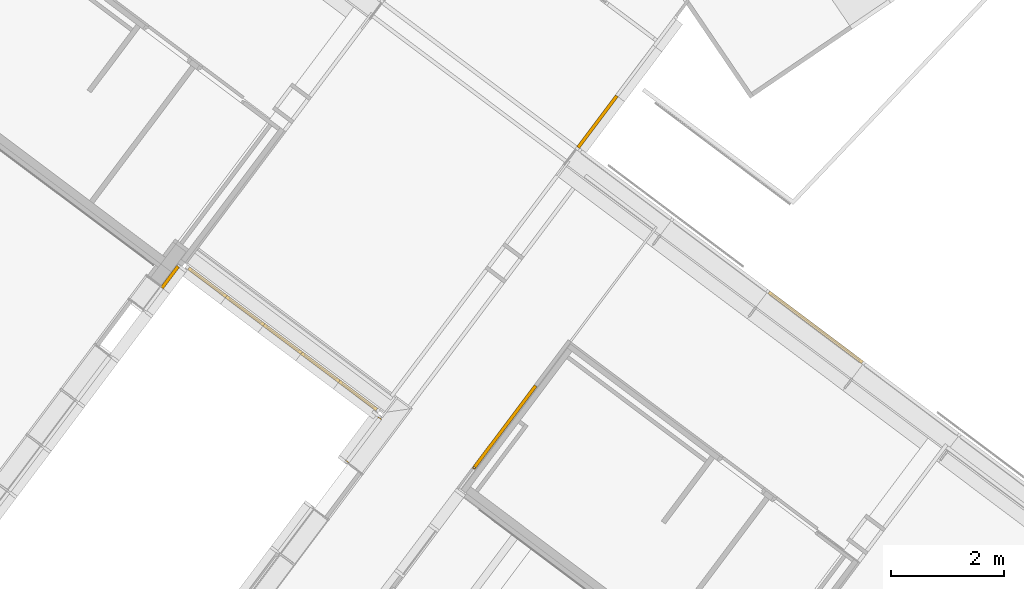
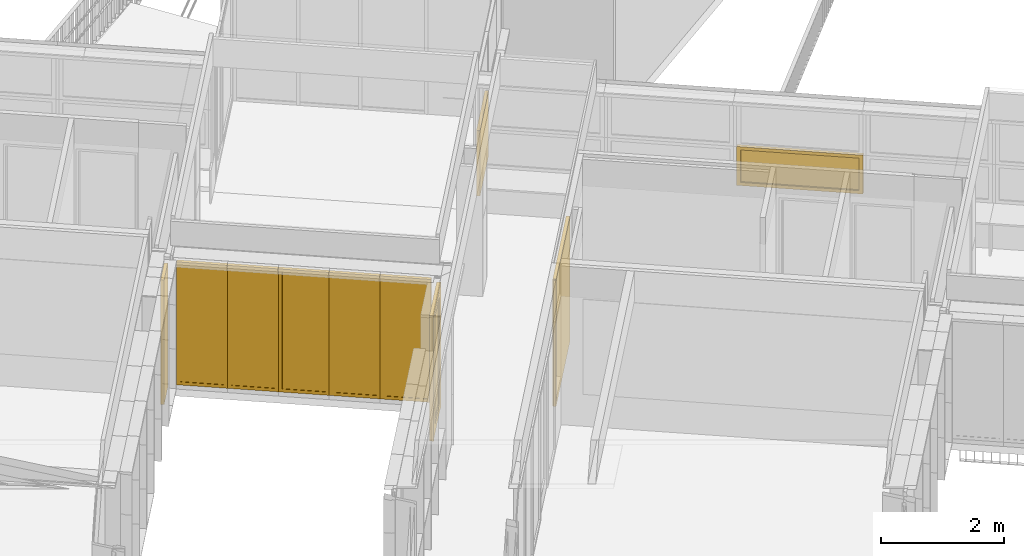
# One storey, part 205 of 243: 6 windows, 4 doors, 5 elements without a shape of their own.
"""IFC2X3 building model written with IfcOpenShell, lengths in metres."""

from ifc_helpers import new_model, entity, si_unit, converted_unit, derived_unit, direction, frame, frame_2d, origin, origin_2d_with_axis, place, context, subcontext, project, spatial, polyline, circle_curve, parameter, trimmed, segment, composite_curve, rectangle, outline, extrude, faceted_brep, source, transform, mapped, material, material_list, type_object, type_shapes, element, aggregate, save


model = new_model("IFC2X3")

# Units and contexts
model_context = context("Model", 3, precision=1e-05, world=origin(), true_north=direction((6.123031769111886e-17, 1.0)))
body_context = subcontext(model_context, "Body", "Model", "MODEL_VIEW")
ifc_project = project(units=[si_unit("LENGTHUNIT", "METRE"), si_unit("AREAUNIT", "SQUARE_METRE"), si_unit("VOLUMEUNIT", "CUBIC_METRE"), converted_unit("PLANEANGLEUNIT", "DEGREE", entity("IfcRatioMeasure", 0.017453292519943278), si_unit("PLANEANGLEUNIT", "RADIAN"), dimensions=[0, 0, 0, 0, 0, 0, 0]), si_unit("MASSUNIT", "GRAM", prefix="KILO"), derived_unit("MASSDENSITYUNIT", [(si_unit("MASSUNIT", "GRAM", prefix="KILO"), 1), (si_unit("LENGTHUNIT", "METRE"), -3)]), derived_unit("IONCONCENTRATIONUNIT", [(si_unit("MASSUNIT", "GRAM", prefix="KILO"), 1), (si_unit("LENGTHUNIT", "METRE"), -3)]), derived_unit("MOMENTOFINERTIAUNIT", [(si_unit("LENGTHUNIT", "METRE"), 4)]), si_unit("TIMEUNIT", "SECOND"), si_unit("FREQUENCYUNIT", "HERTZ"), si_unit("THERMODYNAMICTEMPERATUREUNIT", "DEGREE_CELSIUS"), derived_unit("THERMALTRANSMITTANCEUNIT", [(si_unit("MASSUNIT", "GRAM", prefix="KILO"), 1), (si_unit("THERMODYNAMICTEMPERATUREUNIT", "KELVIN"), -1), (si_unit("TIMEUNIT", "SECOND"), -3)]), derived_unit("THERMALCONDUCTANCEUNIT", [(si_unit("MASSUNIT", "GRAM", prefix="KILO"), 1), (si_unit("THERMODYNAMICTEMPERATUREUNIT", "KELVIN"), -1), (si_unit("TIMEUNIT", "SECOND"), -3), (si_unit("LENGTHUNIT", "METRE"), 1)]), derived_unit("VOLUMETRICFLOWRATEUNIT", [(si_unit("LENGTHUNIT", "METRE"), 3), (si_unit("TIMEUNIT", "SECOND"), -1)]), derived_unit("MASSFLOWRATEUNIT", [(si_unit("MASSUNIT", "GRAM", prefix="KILO"), 1), (si_unit("TIMEUNIT", "SECOND"), -1)]), derived_unit("ROTATIONALFREQUENCYUNIT", [(si_unit("TIMEUNIT", "SECOND"), -1)]), si_unit("ELECTRICCURRENTUNIT", "AMPERE"), si_unit("ELECTRICVOLTAGEUNIT", "VOLT"), si_unit("POWERUNIT", "WATT"), si_unit("FORCEUNIT", "NEWTON", prefix="KILO"), si_unit("ILLUMINANCEUNIT", "LUX"), si_unit("LUMINOUSFLUXUNIT", "LUMEN"), si_unit("LUMINOUSINTENSITYUNIT", "CANDELA"), derived_unit("USERDEFINED", [(si_unit("MASSUNIT", "GRAM", prefix="KILO"), -1), (si_unit("LENGTHUNIT", "METRE"), -2), (si_unit("TIMEUNIT", "SECOND"), 3), (si_unit("LUMINOUSFLUXUNIT", "LUMEN"), 1)]), derived_unit("USERDEFINED", [(si_unit("MASSUNIT", "GRAM", prefix="KILO"), 1), (si_unit("TIMEUNIT", "SECOND"), -3), (si_unit("LENGTHUNIT", "METRE"), 3), (si_unit("ELECTRICCURRENTUNIT", "AMPERE"), -2)]), derived_unit("SOUNDPOWERUNIT", [(si_unit("MASSUNIT", "GRAM", prefix="KILO"), 1), (si_unit("TIMEUNIT", "SECOND"), -3), (si_unit("LENGTHUNIT", "METRE"), 2)]), derived_unit("SOUNDPRESSUREUNIT", [(si_unit("MASSUNIT", "GRAM", prefix="KILO"), 1), (si_unit("LENGTHUNIT", "METRE"), -1), (si_unit("TIMEUNIT", "SECOND"), -2)]), derived_unit("LINEARVELOCITYUNIT", [(si_unit("LENGTHUNIT", "METRE"), 1), (si_unit("TIMEUNIT", "SECOND"), -1)]), si_unit("PRESSUREUNIT", "PASCAL"), derived_unit("USERDEFINED", [(si_unit("MASSUNIT", "GRAM", prefix="KILO"), 1), (si_unit("LENGTHUNIT", "METRE"), -2), (si_unit("TIMEUNIT", "SECOND"), -2)]), derived_unit("LINEARFORCEUNIT", [(si_unit("MASSUNIT", "GRAM", prefix="KILO"), 1), (si_unit("TIMEUNIT", "SECOND"), -2)]), derived_unit("PLANARFORCEUNIT", [(si_unit("MASSUNIT", "GRAM", prefix="KILO"), 1), (si_unit("LENGTHUNIT", "METRE"), -1), (si_unit("TIMEUNIT", "SECOND"), -2)]), derived_unit("SPECIFICHEATCAPACITYUNIT", [(si_unit("THERMODYNAMICTEMPERATUREUNIT", "KELVIN"), -1), (si_unit("LENGTHUNIT", "METRE"), 2), (si_unit("TIMEUNIT", "SECOND"), -2)]), derived_unit("HEATINGVALUEUNIT", [(si_unit("LENGTHUNIT", "METRE"), 2), (si_unit("TIMEUNIT", "SECOND"), -2)]), derived_unit("VAPORPERMEABILITYUNIT", [(si_unit("LENGTHUNIT", "METRE"), -1), (si_unit("TIMEUNIT", "SECOND"), 1)]), derived_unit("DYNAMICVISCOSITYUNIT", [(si_unit("MASSUNIT", "GRAM", prefix="KILO"), 1), (si_unit("TIMEUNIT", "SECOND"), -1), (si_unit("LENGTHUNIT", "METRE"), -1)]), derived_unit("THERMALEXPANSIONCOEFFICIENTUNIT", [(si_unit("THERMODYNAMICTEMPERATUREUNIT", "KELVIN"), -1)]), derived_unit("MODULUSOFELASTICITYUNIT", [(si_unit("MASSUNIT", "GRAM", prefix="KILO"), 1), (si_unit("LENGTHUNIT", "METRE"), -1), (si_unit("TIMEUNIT", "SECOND"), -2)]), derived_unit("ISOTHERMALMOISTURECAPACITYUNIT", [(si_unit("LENGTHUNIT", "METRE"), 3), (si_unit("MASSUNIT", "GRAM", prefix="KILO"), -1)]), derived_unit("MOISTUREDIFFUSIVITYUNIT", [(si_unit("TIMEUNIT", "SECOND"), -1), (si_unit("LENGTHUNIT", "METRE"), 2)])], contexts=[model_context])

# Site, building, storey
site_placement = place(None, frame((0.0, 0.0, 235.0), z_axis=(0.0, 0.0, 1.0), x_axis=(-0.7996477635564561, 0.6004693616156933, 0.0)))
site = spatial("IfcSite", under=ifc_project, at=site_placement, Name="Default", CompositionType="ELEMENT")
building_placement = place(site_placement, origin())
building = spatial("IfcBuilding", under=site, at=building_placement, CompositionType="ELEMENT")
storey_placement = place(building_placement, origin())
storey = spatial("IfcBuildingStorey", under=building, at=storey_placement, Name="P0- Escola", CompositionType="ELEMENT", Elevation=0.0)

# Curtain wall, door
curtain_wall_type_1 = type_object("IfcCurtainWallType", Name="Muro cortina:MC- EXT- MC2", PredefinedType="NOTDEFINED")
curtain_wall_1_placement = place(storey_placement, origin())
curtain_wall_1 = element("IfcCurtainWall", 1, at=curtain_wall_1_placement, inside=storey, type_object=curtain_wall_type_1, Name="Muro cortina:MC- EXT- MC2", ObjectType="Muro cortina:MC- EXT- MC2")
ifc_material_1 = material(Name="_Alumini- T1- Perfil")
ifc_material_2 = material(Name="_Aillament")
ifc_material_list_1 = material_list([ifc_material_1, ifc_material_2])
door_style_1 = type_object("IfcDoorStyle", Name="MC- Alu- panell especific xapa:MC- Alu- panell especific xapa", ConstructionType="NOTDEFINED", OperationType="NOTDEFINED", ParameterTakesPrecedence=False, Sizeable=False, material=ifc_material_list_1)
shared_shape_1 = source(origin(), body_context, "Body", "SweptSolid", [
    extrude(rectangle(XDim=0.005999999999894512, YDim=0.47694997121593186, at=origin_2d_with_axis()), frame((0.0, -0.057000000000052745, 0.0), z_axis=(0.0, 0.0, 1.0), x_axis=(0.0, -1.0, 0.0)), (0.0, 0.0, 1.0), 2.471449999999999),
    extrude(rectangle(XDim=0.4769499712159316, YDim=0.048000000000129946, at=origin_2d_with_axis()), frame((0.0, -0.030000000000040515, 0.0)), (0.0, 0.0, 1.0), 2.471449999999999),
    extrude(rectangle(XDim=0.005999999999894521, YDim=0.47694997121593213, at=origin_2d_with_axis()), frame((0.0, -0.003000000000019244, 0.0), z_axis=(0.0, 0.0, 1.0), x_axis=(0.0, -1.0, 0.0)), (0.0, 0.0, 1.0), 2.471449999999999),
])
type_shapes(door_style_1, [shared_shape_1])
door_1_placement = place(curtain_wall_1_placement, frame((66.44514768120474, -36.16166496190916, 0.03229999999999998), z_axis=(0.0, 0.0, 1.0), x_axis=(0.0, 1.0, 0.0)))
door_1 = element("IfcDoor", 2, at=door_1_placement, type_object=door_style_1, material=ifc_material_list_1, Name="MC- Alu- panell especific xapa:MC- Alu- panell especific xapa", ObjectType="MC- Alu- panell especific xapa:MC- Alu- panell especific xapa", OverallHeight=2.471449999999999, OverallWidth=0.47694997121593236, context=body_context, shape_type="MappedRepresentation", body=[
    mapped(shared_shape_1, transform((0.0, 0.0, 0.0), scale=1.0)),
])
aggregate(curtain_wall_1, [door_1])

curtain_wall_type_2 = type_object("IfcCurtainWallType", Name="Muro cortina:MC- EXT- MC5", PredefinedType="NOTDEFINED")
curtain_wall_2_placement = place(storey_placement, origin())
curtain_wall_2 = element("IfcCurtainWall", 3, at=curtain_wall_2_placement, inside=storey, type_object=curtain_wall_type_2, Name="Muro cortina:MC- EXT- MC5", ObjectType="Muro cortina:MC- EXT- MC5")
ifc_material_3 = material(Name="_Vidre")
ifc_material_list_2 = material_list([ifc_material_1, ifc_material_3])
door_style_2 = type_object("IfcDoorStyle", Name="MC- Alu- Conjunt porta- 70x60 cm- +15cm:MC- Alu- Conjunt porta- 70x60 cm- +15cm", ConstructionType="NOTDEFINED", OperationType="SINGLE_SWING_RIGHT", ParameterTakesPrecedence=False, Sizeable=False, material=ifc_material_list_2)
shared_shape_2 = source(origin(), body_context, "Body", "Brep", [
    faceted_brep([(-0.4116740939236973, -0.06999999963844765, 0.024000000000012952), (-0.4116740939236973, -0.004300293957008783, 0.024000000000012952), (0.4116740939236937, -0.004300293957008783, 0.024000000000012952), (0.4116740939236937, -0.06999999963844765, 0.024000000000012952), (-0.4116740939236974, -0.004300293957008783, 2.410449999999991), (-0.4116740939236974, -0.06999999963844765, 2.410449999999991), (0.4116740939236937, -0.004300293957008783, 2.410449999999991), (0.4356740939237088, -0.004300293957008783, 0.0), (0.4356740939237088, -0.004300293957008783, 2.434450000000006), (-0.4356740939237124, -0.004300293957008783, 2.434450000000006), (-0.4356740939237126, -0.004300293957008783, 0.0), (0.4116740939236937, -0.06999999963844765, 2.410449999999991), (-0.33507409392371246, -0.06999999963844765, 2.333850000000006), (0.3350740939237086, -0.06999999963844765, 2.333850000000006), (0.3350740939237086, -0.06999999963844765, 0.20400000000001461), (-0.3350740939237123, -0.06999999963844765, 0.20400000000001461), (0.4356740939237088, -2.945720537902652e-07, 2.434450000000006), (0.4356740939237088, -2.945720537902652e-07, 0.0), (-0.4356740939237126, -2.945720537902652e-07, 0.0), (-0.43567409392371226, -2.945720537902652e-07, 2.434450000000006), (0.3350740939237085, -2.945720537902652e-07, 2.333850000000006), (-0.33507409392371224, -2.945720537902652e-07, 2.333850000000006), (-0.3350740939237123, -2.945720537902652e-07, 0.20400000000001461), (0.33507409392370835, -2.945720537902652e-07, 0.20400000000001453), (0.33507409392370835, -0.005500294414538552, 2.333850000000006), (0.3350740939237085, -0.005500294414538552, 0.20400000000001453), (-0.3350740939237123, -0.005500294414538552, 0.20400000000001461), (-0.33507409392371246, -0.005500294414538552, 2.333850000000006), (0.36007409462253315, -0.005500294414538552, 2.3588500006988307), (-0.360074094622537, -0.005500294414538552, 2.3588500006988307), (-0.360074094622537, -0.005500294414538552, 0.17899999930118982), (0.36007409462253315, -0.005500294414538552, 0.17899999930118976), (0.36007409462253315, -0.051000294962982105, 2.3588500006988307), (0.36007409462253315, -0.051000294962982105, 0.17899999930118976), (-0.360074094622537, -0.051000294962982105, 0.17899999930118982), (-0.36007409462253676, -0.051000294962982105, 2.3588500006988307), (0.3350740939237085, -0.051000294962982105, 2.333850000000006), (-0.33507409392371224, -0.051000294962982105, 2.333850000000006), (-0.3350740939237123, -0.051000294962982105, 0.20400000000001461), (0.33507409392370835, -0.051000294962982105, 0.20400000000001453)], [[[0, 1, 2, 3]], [[4, 1, 0, 5]], [[2, 1, 4, 6], [7, 8, 9, 10]], [[2, 6, 11, 3]], [[12, 13, 14, 15], [11, 5, 0, 3]], [[16, 8, 7, 17]], [[10, 18, 17, 7]], [[18, 19, 16, 17], [20, 21, 22, 23]], [[24, 20, 23, 25]], [[23, 22, 26, 25]], [[27, 24, 25, 26], [28, 29, 30, 31]], [[32, 28, 31, 33]], [[33, 31, 30, 34]], [[35, 32, 33, 34], [36, 37, 38, 39]], [[13, 36, 39, 14]], [[39, 38, 15, 14]], [[9, 19, 18, 10]], [[21, 27, 26, 22]], [[29, 35, 34, 30]], [[37, 12, 15, 38]], [[19, 9, 8, 16]], [[27, 21, 20, 24]], [[35, 29, 28, 32]], [[12, 37, 36, 13]], [[4, 5, 11, 6]]], outer=[[True], [True], [False, True], [True], [False, True], [True], [True], [True, False], [True], [True], [False, True], [True], [True], [True, False], [True], [True], [True], [True], [True], [True], [True], [True], [True], [True], [True]]),
    faceted_brep([(0.36007409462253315, -0.00910019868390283, 0.17899999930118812), (0.36007409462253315, -0.041100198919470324, 0.17899999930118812), (-0.360074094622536, -0.041100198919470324, 0.17899999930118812), (-0.360074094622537, -0.00910019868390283, 0.17899999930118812), (0.36007409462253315, -0.00910019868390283, 2.358850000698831), (0.36007409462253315, -0.041100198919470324, 2.358850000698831), (-0.360074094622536, -0.041100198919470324, 2.358850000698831), (-0.360074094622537, -0.00910019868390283, 2.358850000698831)], [[[0, 1, 2, 3]], [[4, 5, 1, 0]], [[5, 6, 2, 1]], [[6, 7, 3, 2]], [[7, 4, 0, 3]], [[4, 7, 6, 5]]]),
    faceted_brep([(0.4849740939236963, 0.0, 0.0), (0.4849740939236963, -0.06999999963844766, 0.0), (0.4176740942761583, -0.06999999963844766, 0.0), (0.4176740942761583, -0.061199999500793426, 0.0), (0.4331740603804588, -0.061199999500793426, 0.0), (0.4331740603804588, -0.010300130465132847, 0.0), (0.44367409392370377, -0.010300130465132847, 0.0), (0.44367409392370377, 0.0, 0.0), (0.48497409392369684, 0.0, 2.4837499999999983), (0.48497409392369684, -0.06999999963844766, 2.4837499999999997), (-0.48497409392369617, -0.06999999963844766, 2.4837499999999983), (-0.48497409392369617, -0.06999999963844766, 0.0), (-0.41767409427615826, -0.06999999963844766, 0.0), (-0.41767409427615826, -0.06999999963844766, 2.4164500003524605), (0.4176740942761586, -0.06999999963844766, 2.416450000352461), (0.4176740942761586, -0.061199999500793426, 2.416450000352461), (-0.4176740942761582, -0.061199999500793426, 2.4164500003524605), (-0.4176740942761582, -0.061199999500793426, 0.0), (-0.43317406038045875, -0.061199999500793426, 0.0), (-0.43317406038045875, -0.061199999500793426, 2.4319499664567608), (0.4331740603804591, -0.061199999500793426, 2.431949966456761), (0.4331740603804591, -0.010300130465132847, 2.431949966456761), (-0.43317406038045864, -0.010300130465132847, 2.4319499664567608), (-0.43317406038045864, -0.010300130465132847, 0.0), (-0.443674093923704, -0.010300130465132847, 0.0), (-0.443674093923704, -0.010300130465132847, 2.4424500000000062), (0.4436740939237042, -0.010300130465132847, 2.4424500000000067), (0.4436740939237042, 0.0, 2.4424500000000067), (-0.44367409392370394, 0.0, 2.4424500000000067), (-0.44367409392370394, 0.0, 0.0), (-0.4849740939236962, 0.0, 0.0), (-0.4849740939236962, 0.0, 2.4837499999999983)], [[[0, 1, 2, 3, 4, 5, 6, 7]], [[1, 0, 8, 9]], [[2, 1, 9, 10, 11, 12, 13, 14]], [[3, 2, 14, 15]], [[4, 3, 15, 16, 17, 18, 19, 20]], [[5, 4, 20, 21]], [[6, 5, 21, 22, 23, 24, 25, 26]], [[7, 6, 26, 27]], [[0, 7, 27, 28, 29, 30, 31, 8]], [[30, 29, 24, 23, 18, 17, 12, 11]], [[28, 25, 24, 29]], [[22, 19, 18, 23]], [[16, 13, 12, 17]], [[10, 31, 30, 11]], [[9, 8, 31, 10]], [[15, 14, 13, 16]], [[21, 20, 19, 22]], [[27, 26, 25, 28]]]),
])
type_shapes(door_style_2, [shared_shape_2])
door_2_placement = place(curtain_wall_2_placement, frame((62.04514768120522, -35.91516585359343, 0.020000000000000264), z_axis=(0.0, 0.0, 1.0), x_axis=(0.0, -1.0, 0.0)))
door_2 = element("IfcDoor", 4, at=door_2_placement, type_object=door_style_2, material=ifc_material_list_2, Name="MC- Alu- Conjunt porta- 70x60 cm- +15cm:MC- Alu- Conjunt porta- 70x60 cm- +15cm", ObjectType="MC- Alu- Conjunt porta- 70x60 cm- +15cm:MC- Alu- Conjunt porta- 70x60 cm- +15cm", OverallHeight=2.483750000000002, OverallWidth=0.9699481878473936, context=body_context, shape_type="MappedRepresentation", body=[
    mapped(shared_shape_2, transform((0.0, 0.0, 0.0), scale=1.0)),
])
aggregate(curtain_wall_2, [door_2])

# Curtain wall, window
curtain_wall_type_3 = type_object("IfcCurtainWallType", Name="Muro cortina:MC- EXT- MC6", PredefinedType="NOTDEFINED")
curtain_wall_3_placement = place(storey_placement, origin())
curtain_wall_3 = element("IfcCurtainWall", 5, at=curtain_wall_3_placement, inside=storey, type_object=curtain_wall_type_3, Name="Muro cortina:MC- EXT- MC6", ObjectType="Muro cortina:MC- EXT- MC6")
ifc_material_list_3 = material_list([ifc_material_3, ifc_material_1])
window_style_1 = type_object("IfcWindowStyle", Name="MC- Alu- Conjunt vidre fix- 62x60 cm:MC- Alu- Conjunt vidre fix- 62x60 cm", ConstructionType="NOTDEFINED", OperationType="NOTDEFINED", ParameterTakesPrecedence=False, Sizeable=False, material=ifc_material_list_3)
shared_shape_3 = source(origin(), body_context, "Body", "Brep", [
    faceted_brep([(0.984693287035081, -0.007600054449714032, 0.048806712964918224), (0.9846932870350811, -0.03160022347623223, 0.048806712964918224), (-0.9846932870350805, -0.03160022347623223, 0.048806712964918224), (-0.9846932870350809, -0.007600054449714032, 0.048806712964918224), (0.984693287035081, -0.007600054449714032, 0.7210000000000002), (-0.9846932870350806, -0.007600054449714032, 0.7210000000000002), (-0.9846932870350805, -0.03160022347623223, 0.7210000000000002), (0.9846932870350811, -0.03160022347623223, 0.7210000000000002)], [[[0, 1, 2, 3]], [[4, 0, 3, 5]], [[5, 3, 2, 6]], [[6, 2, 1, 7]], [[7, 1, 0, 4]], [[4, 5, 6, 7]]]),
    faceted_brep([(1.033499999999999, -0.05999999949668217, 0.7700000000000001), (1.033499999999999, -0.05999999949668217, 0.0), (1.033499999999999, 0.0, 0.0), (1.033499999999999, 0.0, 0.7699999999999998), (-1.033499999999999, 0.0, 0.7700000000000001), (-1.033499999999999, 0.0, 0.0), (0.9706931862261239, 0.0, 0.7071931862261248), (-0.9706931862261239, 0.0, 0.707193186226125), (-0.9706931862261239, 0.0, 0.0628068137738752), (0.9706931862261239, 0.0, 0.06280681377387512), (-1.033499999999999, -0.05999999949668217, 0.0), (-1.033499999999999, -0.05999999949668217, 0.7700000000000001), (-0.9706960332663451, -0.05999999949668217, 0.7071960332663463), (0.9706960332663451, -0.05999999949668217, 0.7071960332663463), (0.9706960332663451, -0.05999999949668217, 0.06280396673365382), (-0.9706960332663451, -0.05999999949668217, 0.06280396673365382), (0.9706960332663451, -0.03160022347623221, 0.7071960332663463), (0.9706960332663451, -0.03160022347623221, 0.06280396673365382), (-0.9706960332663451, -0.03160022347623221, 0.06280396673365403), (-0.9706960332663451, -0.03160022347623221, 0.7071960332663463), (-0.9846932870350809, -0.03160022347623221, 0.721193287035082), (0.9846932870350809, -0.03160022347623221, 0.721193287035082), (0.9846932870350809, -0.03160022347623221, 0.048806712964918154), (-0.9846932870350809, -0.03160022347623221, 0.04880671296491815), (0.9846932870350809, -0.007600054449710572, 0.721193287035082), (0.9846932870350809, -0.007600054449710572, 0.04880671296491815), (-0.9846932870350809, -0.007600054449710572, 0.048806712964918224), (-0.9846932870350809, -0.007600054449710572, 0.721193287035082), (-0.9706931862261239, -0.007600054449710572, 0.707193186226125), (0.9706931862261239, -0.007600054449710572, 0.707193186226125), (0.9706931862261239, -0.007600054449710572, 0.06280681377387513), (-0.9706931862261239, -0.007600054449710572, 0.06280681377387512)], [[[0, 1, 2, 3]], [[4, 3, 2, 5], [6, 7, 8, 9]], [[1, 10, 5, 2]], [[0, 11, 10, 1], [12, 13, 14, 15]], [[16, 17, 14, 13]], [[17, 18, 15, 14]], [[16, 19, 18, 17], [20, 21, 22, 23]], [[24, 25, 22, 21]], [[25, 26, 23, 22]], [[24, 27, 26, 25], [28, 29, 30, 31]], [[6, 9, 30, 29]], [[9, 8, 31, 30]], [[10, 11, 4, 5]], [[18, 19, 12, 15]], [[26, 27, 20, 23]], [[8, 7, 28, 31]], [[11, 0, 3, 4]], [[19, 16, 13, 12]], [[27, 24, 21, 20]], [[7, 6, 29, 28]]], outer=[[True], [True, False], [True], [True, False], [True], [True], [False, True], [True], [True], [True, False], [True], [True], [True], [True], [True], [True], [True], [True], [True], [True]]),
])
type_shapes(window_style_1, [shared_shape_3])
window_1_placement = place(curtain_wall_3_placement, frame((56.81064360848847, -42.340191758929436, 0.685), z_axis=(0.0, 0.0, 1.0), x_axis=(-1.0, 0.0, 0.0)))
window_1 = element("IfcWindow", 6, at=window_1_placement, type_object=window_style_1, material=ifc_material_list_3, Name="MC- Alu- Conjunt vidre fix- 62x60 cm:MC- Alu- Conjunt vidre fix- 62x60 cm", ObjectType="MC- Alu- Conjunt vidre fix- 62x60 cm:MC- Alu- Conjunt vidre fix- 62x60 cm", OverallHeight=0.7700000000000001, OverallWidth=2.066999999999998, context=body_context, shape_type="MappedRepresentation", body=[
    mapped(shared_shape_3, transform((0.0, 0.0, 0.0), scale=1.0)),
])
aggregate(curtain_wall_3, [window_1])

# Curtain wall, door
curtain_wall_type_4 = type_object("IfcCurtainWallType", PredefinedType="NOTDEFINED")
curtain_wall_4_placement = place(storey_placement, origin())
curtain_wall_4 = element("IfcCurtainWall", 7, at=curtain_wall_4_placement, inside=storey, type_object=curtain_wall_type_4)
door_style_3 = type_object("IfcDoorStyle", Name="MC- Alu- panell especific xapa:MC- Alu- panell especific xapa", ConstructionType="NOTDEFINED", OperationType="NOTDEFINED", ParameterTakesPrecedence=False, Sizeable=False, material=ifc_material_list_1)
shared_shape_4 = source(origin(), body_context, "Body", "SweptSolid", [
    extrude(rectangle(XDim=0.005999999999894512, YDim=1.1409981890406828, at=origin_2d_with_axis()), frame((0.0, -0.057000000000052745, 0.0), z_axis=(0.0, 0.0, 1.0), x_axis=(0.0, -1.0, 0.0)), (0.0, 0.0, 1.0), 1.2999999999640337),
    extrude(rectangle(XDim=1.1409981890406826, YDim=0.048000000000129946, at=origin_2d_with_axis()), frame((0.0, -0.030000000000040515, 0.0)), (0.0, 0.0, 1.0), 1.2999999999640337),
    extrude(rectangle(XDim=0.005999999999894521, YDim=1.140998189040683, at=origin_2d_with_axis()), frame((0.0, -0.003000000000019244, 0.0), z_axis=(0.0, 0.0, 1.0), x_axis=(0.0, -1.0, 0.0)), (0.0, 0.0, 1.0), 1.2999999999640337),
])
type_shapes(door_style_3, [shared_shape_4])
door_3_placement = place(curtain_wall_4_placement, frame((62.05048814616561, -42.90069085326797, 0.085), z_axis=(0.0, 0.0, 1.0), x_axis=(0.0, 1.0, 0.0)))
door_3 = element("IfcDoor", 8, at=door_3_placement, type_object=door_style_3, material=ifc_material_list_1, Name="MC- Alu- panell especific xapa:MC- Alu- panell especific xapa", ObjectType="MC- Alu- panell especific xapa:MC- Alu- panell especific xapa", OverallHeight=1.2999999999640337, OverallWidth=1.1409981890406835, context=body_context, shape_type="MappedRepresentation", body=[
    mapped(shared_shape_4, transform((0.0, 0.0, 0.0), scale=1.0)),
])
aggregate(curtain_wall_4, [door_3])

# Curtain wall, windows
curtain_wall_type_5 = type_object("IfcCurtainWallType", PredefinedType="NOTDEFINED")
curtain_wall_5_placement = place(storey_placement, origin())
curtain_wall_5 = element("IfcCurtainWall", 9, at=curtain_wall_5_placement, inside=storey, type_object=curtain_wall_type_5)
window_style_2 = type_object("IfcWindowStyle", Name="MC- Alu- Conjunt vidre fix- 62x60 cm:MC- Alu- Conjunt vidre fix- 62x60 cm", ConstructionType="NOTDEFINED", OperationType="NOTDEFINED", ParameterTakesPrecedence=False, Sizeable=False, material=ifc_material_list_3)
shared_shape_5 = source(origin(), body_context, "Body", "Brep", [
    faceted_brep([(-0.367593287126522, -0.007600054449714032, 0.048806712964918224), (0.36759328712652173, -0.007600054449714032, 0.048806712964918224), (0.36759328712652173, -0.03160022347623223, 0.048806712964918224), (-0.367593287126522, -0.03160022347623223, 0.048806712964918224), (-0.367593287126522, -0.007600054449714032, 2.389749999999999), (0.36759328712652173, -0.007600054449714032, 2.389749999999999), (0.36759328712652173, -0.03160022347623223, 2.389749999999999), (-0.367593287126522, -0.03160022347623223, 2.389749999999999)], [[[0, 1, 2, 3]], [[4, 5, 1, 0]], [[5, 6, 2, 1]], [[6, 7, 3, 2]], [[7, 4, 0, 3]], [[4, 7, 6, 5]]]),
    faceted_brep([(-0.4164000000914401, -0.05999999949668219, 2.438749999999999), (-0.4164000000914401, 0.0, 2.438749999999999), (-0.4164000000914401, 0.0, 0.0), (-0.41640000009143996, -0.05999999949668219, 0.0), (-0.3535931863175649, 0.0, 2.3759431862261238), (-0.3535931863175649, 0.0, 0.06280681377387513), (0.353593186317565, 0.0, 0.06280681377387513), (0.35359318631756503, 0.0, 2.3759431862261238), (0.4164000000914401, 0.0, 2.438749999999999), (0.4164000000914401, 0.0, 0.0), (0.41640000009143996, -0.05999999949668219, 0.0), (0.4164000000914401, -0.05999999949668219, 2.438749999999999), (0.35359603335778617, -0.05999999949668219, 2.3759460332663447), (0.3535960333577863, -0.05999999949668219, 0.06280396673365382), (-0.3535960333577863, -0.05999999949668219, 0.06280396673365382), (-0.3535960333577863, -0.05999999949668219, 2.375946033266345), (-0.3535960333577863, -0.03160022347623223, 2.375946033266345), (-0.3535960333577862, -0.03160022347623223, 0.06280396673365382), (0.3535960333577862, -0.03160022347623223, 0.0628039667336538), (0.3535960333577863, -0.03160022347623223, 2.375946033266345), (0.36759328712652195, -0.03160022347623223, 2.3899432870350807), (0.36759328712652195, -0.03160022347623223, 0.048806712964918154), (-0.36759328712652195, -0.03160022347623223, 0.04880671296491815), (-0.36759328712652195, -0.03160022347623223, 2.3899432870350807), (-0.36759328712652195, -0.007600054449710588, 2.3899432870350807), (-0.36759328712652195, -0.007600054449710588, 0.04880671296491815), (0.36759328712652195, -0.007600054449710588, 0.048806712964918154), (0.36759328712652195, -0.007600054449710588, 2.3899432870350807), (0.353593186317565, -0.007600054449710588, 2.3759431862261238), (0.353593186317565, -0.007600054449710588, 0.06280681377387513), (-0.353593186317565, -0.007600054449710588, 0.06280681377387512), (-0.35359318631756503, -0.007600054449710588, 2.3759431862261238)], [[[0, 1, 2, 3]], [[4, 5, 6, 7], [8, 9, 2, 1]], [[3, 2, 9, 10]], [[0, 3, 10, 11], [12, 13, 14, 15]], [[16, 15, 14, 17]], [[17, 14, 13, 18]], [[16, 17, 18, 19], [20, 21, 22, 23]], [[24, 23, 22, 25]], [[25, 22, 21, 26]], [[24, 25, 26, 27], [28, 29, 30, 31]], [[4, 31, 30, 5]], [[5, 30, 29, 6]], [[10, 9, 8, 11]], [[18, 13, 12, 19]], [[26, 21, 20, 27]], [[6, 29, 28, 7]], [[11, 8, 1, 0]], [[19, 12, 15, 16]], [[27, 20, 23, 24]], [[7, 28, 31, 4]]], outer=[[True], [False, True], [True], [True, False], [True], [True], [False, True], [True], [True], [True, False], [True], [True], [True], [True], [True], [True], [True], [True], [True], [True]]),
])
type_shapes(window_style_2, [shared_shape_5])
window_2_placement = place(curtain_wall_5_placement, frame((62.55954768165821, -36.45518994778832, 0.06499999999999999)))
window_2 = element("IfcWindow", 10, at=window_2_placement, type_object=window_style_2, material=ifc_material_list_3, Name="MC- Alu- Conjunt vidre fix- 62x60 cm:MC- Alu- Conjunt vidre fix- 62x60 cm", ObjectType="MC- Alu- Conjunt vidre fix- 62x60 cm:MC- Alu- Conjunt vidre fix- 62x60 cm", OverallHeight=2.438749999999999, OverallWidth=0.8328000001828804, context=body_context, shape_type="MappedRepresentation", body=[
    mapped(shared_shape_5, transform((0.0, 0.0, 0.0), scale=1.0)),
])
window_3_placement = place(curtain_wall_5_placement, frame((63.39234768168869, -36.45518994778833, 0.06499999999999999)))
window_3 = element("IfcWindow", 11, at=window_3_placement, type_object=window_style_2, material=ifc_material_list_3, Name="MC- Alu- Conjunt vidre fix- 62x60 cm:MC- Alu- Conjunt vidre fix- 62x60 cm", ObjectType="MC- Alu- Conjunt vidre fix- 62x60 cm:MC- Alu- Conjunt vidre fix- 62x60 cm", OverallHeight=2.438749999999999, OverallWidth=0.8328000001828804, context=body_context, shape_type="MappedRepresentation", body=[
    mapped(shared_shape_5, transform((0.0, 0.0, 0.0), scale=1.0)),
])
window_4_placement = place(curtain_wall_5_placement, frame((64.22514768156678, -36.45518994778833, 0.06499999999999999)))
window_4 = element("IfcWindow", 12, at=window_4_placement, type_object=window_style_2, material=ifc_material_list_3, Name="MC- Alu- Conjunt vidre fix- 62x60 cm:MC- Alu- Conjunt vidre fix- 62x60 cm", ObjectType="MC- Alu- Conjunt vidre fix- 62x60 cm:MC- Alu- Conjunt vidre fix- 62x60 cm", OverallHeight=2.438749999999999, OverallWidth=0.8328000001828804, context=body_context, shape_type="MappedRepresentation", body=[
    mapped(shared_shape_5, transform((0.0, 0.0, 0.0), scale=1.0)),
])
window_5_placement = place(curtain_wall_5_placement, frame((65.05794768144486, -36.455189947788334, 0.06499999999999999)))
window_5 = element("IfcWindow", 13, at=window_5_placement, type_object=window_style_2, material=ifc_material_list_3, Name="MC- Alu- Conjunt vidre fix- 62x60 cm:MC- Alu- Conjunt vidre fix- 62x60 cm", ObjectType="MC- Alu- Conjunt vidre fix- 62x60 cm:MC- Alu- Conjunt vidre fix- 62x60 cm", OverallHeight=2.438749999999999, OverallWidth=0.8328000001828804, context=body_context, shape_type="MappedRepresentation", body=[
    mapped(shared_shape_5, transform((0.0, 0.0, 0.0), scale=1.0)),
])
window_6_placement = place(curtain_wall_5_placement, frame((65.89074768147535, -36.455189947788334, 0.06499999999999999)))
window_6 = element("IfcWindow", 14, at=window_6_placement, type_object=window_style_2, material=ifc_material_list_3, Name="MC- Alu- Conjunt vidre fix- 62x60 cm:MC- Alu- Conjunt vidre fix- 62x60 cm", ObjectType="MC- Alu- Conjunt vidre fix- 62x60 cm:MC- Alu- Conjunt vidre fix- 62x60 cm", OverallHeight=2.438749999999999, OverallWidth=0.8328000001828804, context=body_context, shape_type="MappedRepresentation", body=[
    mapped(shared_shape_5, transform((0.0, 0.0, 0.0), scale=1.0)),
])
aggregate(curtain_wall_5, [window_2, window_3, window_4, window_5, window_6])

# Door
ifc_material_4 = material(Name="_Fusta massisa- T1")
door_style_4 = type_object("IfcDoorStyle", Name="FUS- Porta Fusta- Tancament passadis:FUS- Porta Fusta- Tancament passadis", ConstructionType="NOTDEFINED", OperationType="SINGLE_SWING_LEFT", ParameterTakesPrecedence=False, Sizeable=False, material=ifc_material_4)
shared_shape_6 = source(origin(), body_context, "Body", "SweptSolid", [
    extrude(outline(composite_curve([segment(polyline([(-0.9043099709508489, -0.03000000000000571), (0.904309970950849, -0.030000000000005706)]), True, "CONTINUOUS"), segment(trimmed(circle_curve(frame_2d((0.904309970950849, 0.0), x_axis=(-1.0, 0.0)), 0.030000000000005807), [parameter(89.99999999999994)], [parameter(269.99999999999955)], True, "PARAMETER"), True, "CONTINUOUS"), segment(polyline([(0.9043099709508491, 0.030000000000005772), (-0.9043099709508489, 0.030000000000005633)]), True, "CONTINUOUS"), segment(polyline([(-0.9043099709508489, 0.030000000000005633), (-0.9043099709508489, -0.03000000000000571)]), True, "CONTINUOUS")], self_intersect=False), holes=[composite_curve([segment(trimmed(circle_curve(frame_2d((0.904309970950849, 0.0), x_axis=(-1.0, 0.0)), 0.014999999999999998), [parameter(3.053332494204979e-13)], [parameter(180.0)], True, "PARAMETER"), False, "CONTINUOUS"), segment(trimmed(circle_curve(frame_2d((0.904309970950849, 0.0), x_axis=(-1.0, 0.0)), 0.014999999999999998), [parameter(179.99999999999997)], [parameter(0.0)], True, "PARAMETER"), False, "CONTINUOUS")], self_intersect=False)]), frame((0.9343099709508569, 0.0, 0.0), z_axis=(0.0, 0.0, 1.0), x_axis=(-1.0, 0.0, 0.0)), (0.0, 0.0, 1.0), 2.5049999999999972),
])
type_shapes(door_style_4, [shared_shape_6])
door_4_placement = place(storey_placement, frame((60.150147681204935, -36.66969175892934, 0.0), z_axis=(0.0, 0.0, 1.0), x_axis=(0.0, -1.0, 0.0)))
element("IfcDoor", 15, at=door_4_placement, inside=storey, type_object=door_style_4, material=ifc_material_4, Name="FUS- Porta Fusta- Tancament passadis:FUS- Porta Fusta- Tancament passadis", ObjectType="FUS- Porta Fusta- Tancament passadis:FUS- Porta Fusta- Tancament passadis", OverallHeight=2.505000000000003, OverallWidth=1.8386199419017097, context=body_context, shape_type="MappedRepresentation", body=[
    mapped(shared_shape_6, transform((0.0, 0.0, 0.0), scale=1.0)),
])

save(model, "model.ifc")
